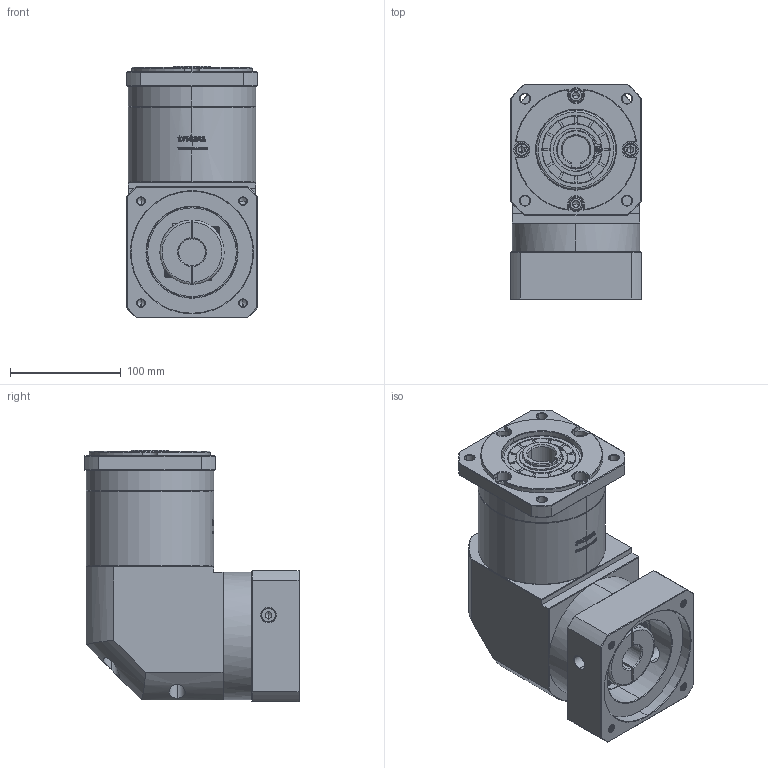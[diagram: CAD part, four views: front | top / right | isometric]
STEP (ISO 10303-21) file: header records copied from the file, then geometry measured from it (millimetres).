
FILE_DESCRIPTION (( 'STEP AP214' ), '1' );
FILE_NAME ('ZFR120A-K25-L2-24-110-130-M8.step', '2023-03-08T08:31:56', ( '' ), ( '' ), 'SwSTEP 2.0', 'SolidWorks 2016', '' );
FILE_SCHEMA (( 'AUTOMOTIVE_DESIGN' ));
Length unit declared in the file: millimetre
Products named in the file (1): ZFR120A-K25-L2-24-110-130-M8
Bounding box: 118 x 193.9 x 226.5 mm (x, y, z)
Volume: 3121866.4 mm3; surface area: 252429.3 mm2
Topology: 6 solids, 6 shells, 2814 faces, 7535 edges, 4866 vertices
Faces by surface type: plane 1477, bspline 597, cylinder 401, cone 331, torus 8
Entity records: 152484 total; most frequent: CARTESIAN_POINT 56817, ORIENTED_EDGE 15014, DIRECTION 10945, EDGE_CURVE 7507, VERTEX_POINT 4866, LINE 4697, VECTOR 4697, AXIS2_PLACEMENT_3D 3124
